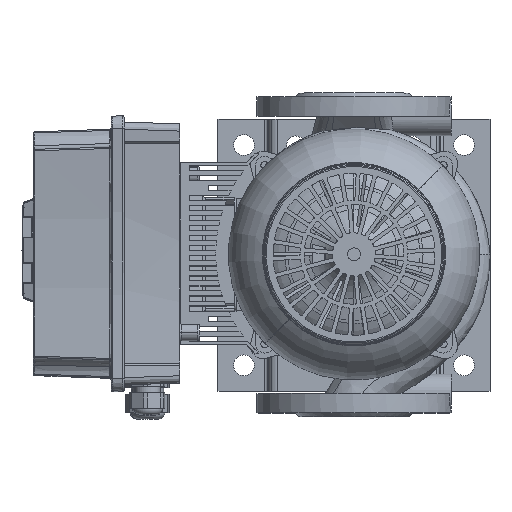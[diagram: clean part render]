
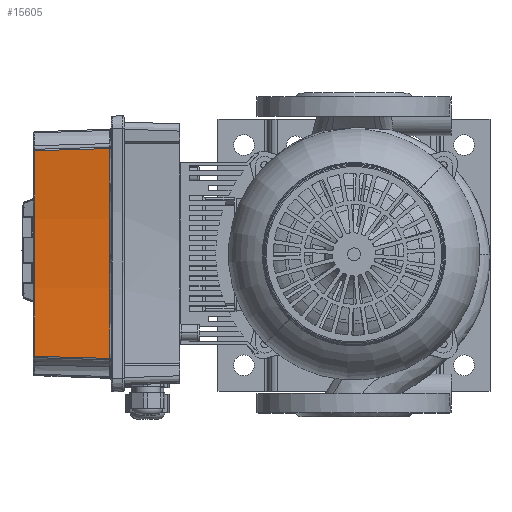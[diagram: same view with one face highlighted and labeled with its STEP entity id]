
A CAD part, top view. The second image highlights one B-rep face of the part: STEP entity #15605.
In plain terms, the highlighted conical face has half-angle 2 degrees and reference radius 845 mm.
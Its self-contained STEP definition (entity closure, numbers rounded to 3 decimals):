
#15605=ADVANCED_FACE('',(#31941),#31942,.F.);
#31941=FACE_OUTER_BOUND('',#61060,.T.);
#31942=CONICAL_SURFACE('',#61061,845.0,0.035);
#61060=EDGE_LOOP('',(#96716,#96717,#96718,#96719));
#61061=AXIS2_PLACEMENT_3D('',#96720,#96721,#96722);
#96716=ORIENTED_EDGE('',*,*,#126819,.F.);
#96717=ORIENTED_EDGE('',*,*,#126874,.F.);
#96718=ORIENTED_EDGE('',*,*,#126835,.F.);
#96719=ORIENTED_EDGE('',*,*,#126863,.F.);
#96720=CARTESIAN_POINT('',(-110.0,1132.065,60.0));
#96721=DIRECTION('',(0.,-0.0,-1.0));
#96722=DIRECTION('',(1.0,0.0,0.));
#126819=EDGE_CURVE('',#145514,#145520,#145521,.T.);
#126835=EDGE_CURVE('',#145541,#145533,#145543,.T.);
#126863=EDGE_CURVE('',#145520,#145541,#145573,.T.);
#126874=EDGE_CURVE('',#145533,#145514,#145585,.T.);
#145514=VERTEX_POINT('',#178051);
#145520=VERTEX_POINT('',#178093);
#145521=B_SPLINE_CURVE_WITH_KNOTS('',3,(#178094,#178095,#178096,#178097,#178098,#178099,#178100,#178101,#178102,#178103,#178104,#178105,#178106,#178107,#178108,#178109,#178110,#178111,#178112,#178113,#178114,#178115,#178116,#178117,#178118),.UNSPECIFIED.,.F.,.F.,(4,3,3,3,3,3,3,3,4),(-60.14,-51.629,-41.43,-35.057,-31.073,-27.089,-20.715,-10.517,-2.006),.UNSPECIFIED.);
#145533=VERTEX_POINT('',#178207);
#145541=VERTEX_POINT('',#178268);
#145543=B_SPLINE_CURVE_WITH_KNOTS('',3,(#178283,#178284,#178285,#178286,#178287,#178288,#178289,#178290,#178291,#178292,#178293,#178294,#178295,#178296,#178297,#178298,#178299,#178300,#178301,#178302,#178303,#178304,#178305,#178306,#178307),.UNSPECIFIED.,.F.,.F.,(4,3,3,3,3,3,3,3,4),(2.006,10.517,20.716,27.09,31.073,35.057,41.431,51.63,60.14),.UNSPECIFIED.);
#145573=CIRCLE('',#178498,847.062);
#145585=CIRCLE('',#178526,845.034);
#178051=CARTESIAN_POINT('',(-190.987,290.921,59.035));
#178093=CARTESIAN_POINT('',(-189.365,288.73,0.965));
#178094=CARTESIAN_POINT('',(-190.987,290.921,59.035));
#178095=CARTESIAN_POINT('',(-190.902,290.814,56.201));
#178096=CARTESIAN_POINT('',(-190.819,290.706,53.368));
#178097=CARTESIAN_POINT('',(-190.736,290.599,50.534));
#178098=CARTESIAN_POINT('',(-190.637,290.47,47.138));
#178099=CARTESIAN_POINT('',(-190.539,290.342,43.743));
#178100=CARTESIAN_POINT('',(-190.442,290.214,40.347));
#178101=CARTESIAN_POINT('',(-190.381,290.133,38.225));
#178102=CARTESIAN_POINT('',(-190.321,290.053,36.103));
#178103=CARTESIAN_POINT('',(-190.261,289.973,33.98));
#178104=CARTESIAN_POINT('',(-190.224,289.923,32.654));
#178105=CARTESIAN_POINT('',(-190.187,289.873,31.327));
#178106=CARTESIAN_POINT('',(-190.15,289.823,30.001));
#178107=CARTESIAN_POINT('',(-190.113,289.773,28.675));
#178108=CARTESIAN_POINT('',(-190.076,289.723,27.348));
#178109=CARTESIAN_POINT('',(-190.04,289.673,26.022));
#178110=CARTESIAN_POINT('',(-189.981,289.593,23.899));
#178111=CARTESIAN_POINT('',(-189.923,289.513,21.777));
#178112=CARTESIAN_POINT('',(-189.865,289.433,19.655));
#178113=CARTESIAN_POINT('',(-189.772,289.305,16.259));
#178114=CARTESIAN_POINT('',(-189.681,289.177,12.863));
#178115=CARTESIAN_POINT('',(-189.59,289.049,9.467));
#178116=CARTESIAN_POINT('',(-189.515,288.943,6.633));
#178117=CARTESIAN_POINT('',(-189.44,288.836,3.799));
#178118=CARTESIAN_POINT('',(-189.365,288.73,0.965));
#178207=CARTESIAN_POINT('',(-29.013,290.921,59.035));
#178268=CARTESIAN_POINT('',(-30.635,288.73,0.965));
#178283=CARTESIAN_POINT('',(-30.635,288.73,0.965));
#178284=CARTESIAN_POINT('',(-30.56,288.836,3.799));
#178285=CARTESIAN_POINT('',(-30.485,288.943,6.633));
#178286=CARTESIAN_POINT('',(-30.41,289.049,9.467));
#178287=CARTESIAN_POINT('',(-30.319,289.177,12.863));
#178288=CARTESIAN_POINT('',(-30.228,289.305,16.259));
#178289=CARTESIAN_POINT('',(-30.135,289.433,19.654));
#178290=CARTESIAN_POINT('',(-30.077,289.513,21.777));
#178291=CARTESIAN_POINT('',(-30.019,289.593,23.899));
#178292=CARTESIAN_POINT('',(-29.96,289.673,26.022));
#178293=CARTESIAN_POINT('',(-29.924,289.723,27.348));
#178294=CARTESIAN_POINT('',(-29.887,289.773,28.674));
#178295=CARTESIAN_POINT('',(-29.85,289.823,30.001));
#178296=CARTESIAN_POINT('',(-29.813,289.873,31.327));
#178297=CARTESIAN_POINT('',(-29.776,289.923,32.654));
#178298=CARTESIAN_POINT('',(-29.739,289.973,33.98));
#178299=CARTESIAN_POINT('',(-29.679,290.053,36.103));
#178300=CARTESIAN_POINT('',(-29.619,290.133,38.225));
#178301=CARTESIAN_POINT('',(-29.558,290.214,40.347));
#178302=CARTESIAN_POINT('',(-29.461,290.342,43.743));
#178303=CARTESIAN_POINT('',(-29.363,290.47,47.139));
#178304=CARTESIAN_POINT('',(-29.264,290.599,50.534));
#178305=CARTESIAN_POINT('',(-29.181,290.706,53.368));
#178306=CARTESIAN_POINT('',(-29.098,290.814,56.201));
#178307=CARTESIAN_POINT('',(-29.013,290.921,59.035));
#178498=AXIS2_PLACEMENT_3D('',#206525,#206526,#206527);
#178526=AXIS2_PLACEMENT_3D('',#206537,#206538,#206539);
#206525=CARTESIAN_POINT('',(-110.0,1132.065,0.965));
#206526=DIRECTION('',(0.,0.,1.0));
#206527=DIRECTION('',(0.0,-1.0,0.));
#206537=CARTESIAN_POINT('',(-110.0,1132.065,59.035));
#206538=DIRECTION('',(-0.0,-0.0,-1.0));
#206539=DIRECTION('',(0.0,-1.0,0.0));
